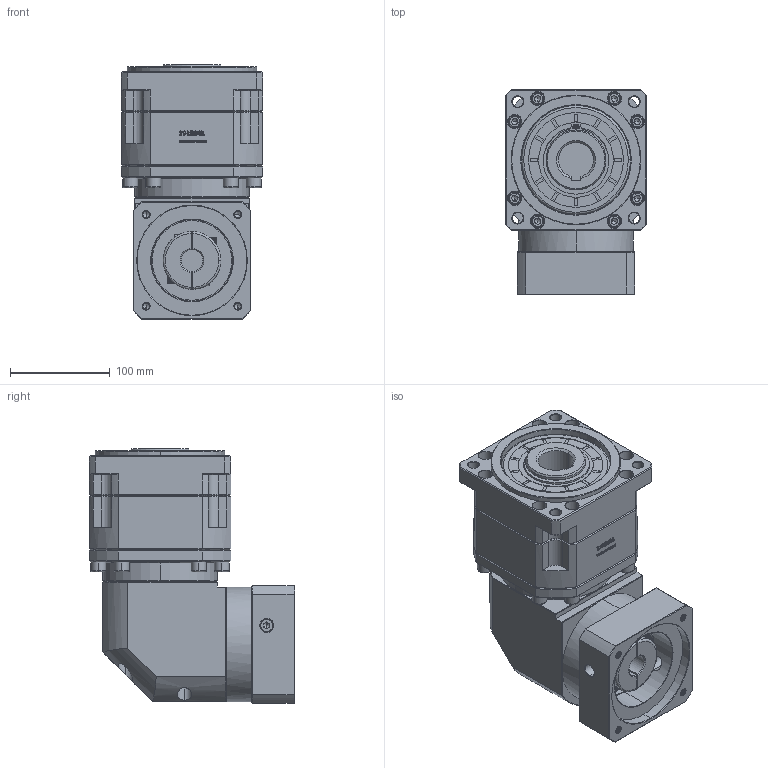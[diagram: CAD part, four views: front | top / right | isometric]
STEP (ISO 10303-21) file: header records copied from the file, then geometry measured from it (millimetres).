
FILE_DESCRIPTION (( 'STEP AP214' ), '1' );
FILE_NAME ('ZBR142A-K35-L2-22-110-130-M8.step', '2023-03-20T04:14:55', ( '' ), ( '' ), 'SwSTEP 2.0', 'SolidWorks 2016', '' );
FILE_SCHEMA (( 'AUTOMOTIVE_DESIGN' ));
Length unit declared in the file: millimetre
Products named in the file (1): ZBR142A-K35-L2-22-110-130-M8
Bounding box: 142 x 205.9 x 255.2 mm (x, y, z)
Volume: 4211222.6 mm3; surface area: 312105.2 mm2
Topology: 6 solids, 6 shells, 3133 faces, 8255 edges, 5289 vertices
Faces by surface type: plane 1645, bspline 586, cylinder 465, cone 393, torus 44
Entity records: 164133 total; most frequent: CARTESIAN_POINT 56725, ORIENTED_EDGE 16406, DIRECTION 12867, EDGE_CURVE 8203, LINE 5531, VECTOR 5531, VERTEX_POINT 5289, AXIS2_PLACEMENT_3D 3668
